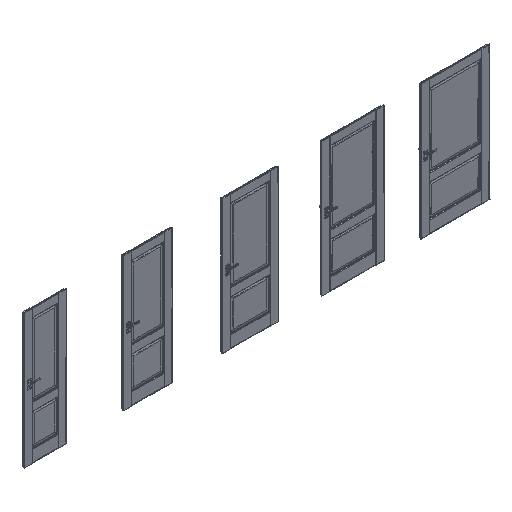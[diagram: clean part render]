
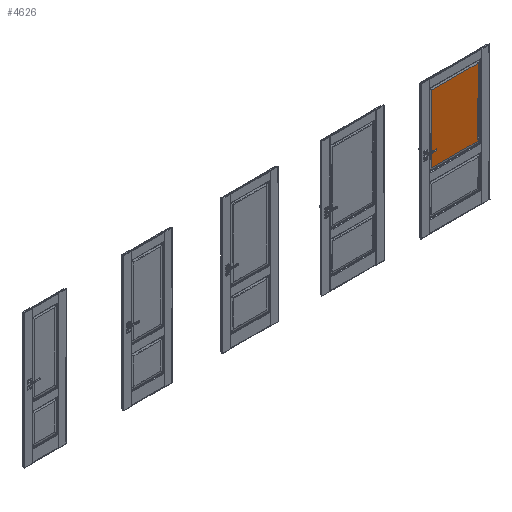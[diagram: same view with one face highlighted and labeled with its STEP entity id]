
A CAD part, isometric view. The second image highlights one B-rep face of the part: STEP entity #4626.
In plain terms, the highlighted planar face has unit normal (0, -1, 0).
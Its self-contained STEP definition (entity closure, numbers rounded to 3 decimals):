
#2842=FACE_OUTER_BOUND('',#8570,.T.);
#4626=ADVANCED_FACE('',(#2842),#6061,.T.);
#6061=PLANE('',#33267);
#8570=EDGE_LOOP('',(#14801,#14802,#14803,#14804));
#14801=ORIENTED_EDGE('',*,*,#24112,.F.);
#14802=ORIENTED_EDGE('',*,*,#24113,.F.);
#14803=ORIENTED_EDGE('',*,*,#24114,.T.);
#14804=ORIENTED_EDGE('',*,*,#24109,.T.);
#20344=VERTEX_POINT('',#50352);
#20345=VERTEX_POINT('',#50354);
#20346=VERTEX_POINT('',#50358);
#20347=VERTEX_POINT('',#50362);
#24109=EDGE_CURVE('',#20345,#20344,#27803,.T.);
#24112=EDGE_CURVE('',#20346,#20344,#27806,.T.);
#24113=EDGE_CURVE('',#20347,#20346,#27807,.T.);
#24114=EDGE_CURVE('',#20347,#20345,#27808,.T.);
#27803=LINE('',#50353,#30658);
#27806=LINE('',#50359,#30661);
#27807=LINE('',#50361,#30662);
#27808=LINE('',#50363,#30663);
#30658=VECTOR('',#39787,1.);
#30661=VECTOR('',#39792,1.);
#30662=VECTOR('',#39795,1.);
#30663=VECTOR('',#39796,1.);
#33267=AXIS2_PLACEMENT_3D('',#50364,#39797,#39798);
#39787=DIRECTION('',(0.,0.,-1.));
#39792=DIRECTION('',(-1.,0.,0.));
#39795=DIRECTION('',(0.,0.,-1.));
#39796=DIRECTION('',(-1.,0.,0.));
#39797=DIRECTION('',(0.,-1.,0.));
#39798=DIRECTION('',(0.,0.,-1.));
#50352=CARTESIAN_POINT('',(5847.365,-28.15,842.365));
#50353=CARTESIAN_POINT('',(5847.365,-28.15,1351.5));
#50354=CARTESIAN_POINT('',(5847.365,-28.15,1860.635));
#50358=CARTESIAN_POINT('',(6552.635,-28.15,842.365));
#50359=CARTESIAN_POINT('',(6000.,-28.15,842.365));
#50361=CARTESIAN_POINT('',(6552.635,-28.15,1921.));
#50362=CARTESIAN_POINT('',(6552.635,-28.15,1860.635));
#50363=CARTESIAN_POINT('',(6213.,-28.15,1860.635));
#50364=CARTESIAN_POINT('',(6000.,-28.15,1351.5));
